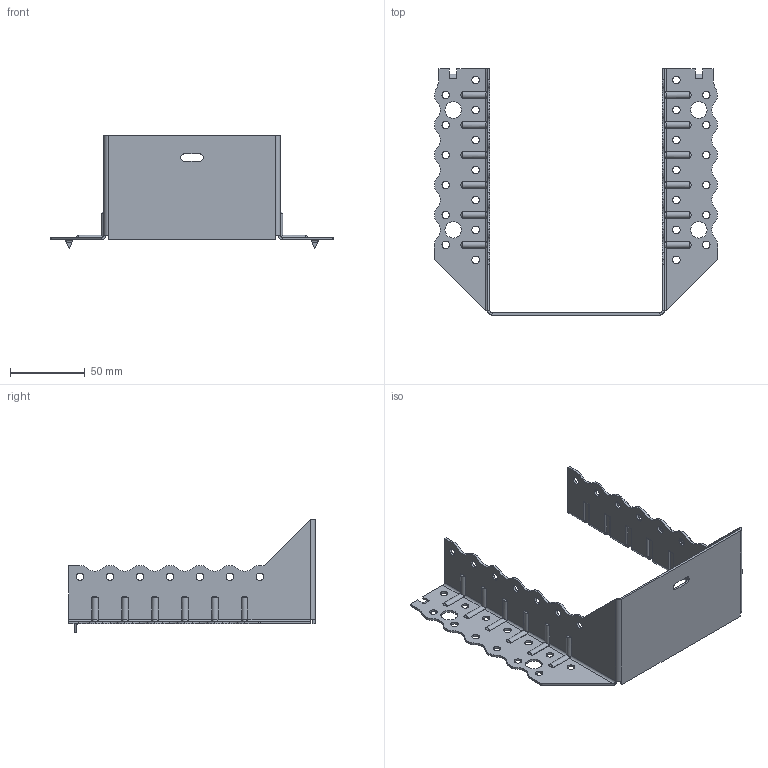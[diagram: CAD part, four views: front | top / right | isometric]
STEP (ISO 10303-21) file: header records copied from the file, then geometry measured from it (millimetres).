
FILE_DESCRIPTION (( 'STEP AP203' ), '1' );
FILE_NAME ('30629TOP.STEP', '2021-04-07T13:56:45', ( '' ), ( '' ), 'SwSTEP 2.0', 'SolidWorks 2013', '' );
FILE_SCHEMA (( 'CONFIG_CONTROL_DESIGN' ));
Length unit declared in the file: millimetre
Products named in the file (1): 30629TOP
Bounding box: 189 x 164.5 x 76 mm (x, y, z)
Volume: 44719.7 mm3; surface area: 63554.1 mm2
Topology: 1 solids, 1 shells, 498 faces, 1348 edges, 852 vertices
Faces by surface type: cylinder 317, plane 133, torus 24, bspline 24
Entity records: 18595 total; most frequent: CARTESIAN_POINT 5929, ORIENTED_EDGE 2696, DIRECTION 2596, EDGE_CURVE 1348, AXIS2_PLACEMENT_3D 949, VERTEX_POINT 852, VECTOR 698, LINE 698
